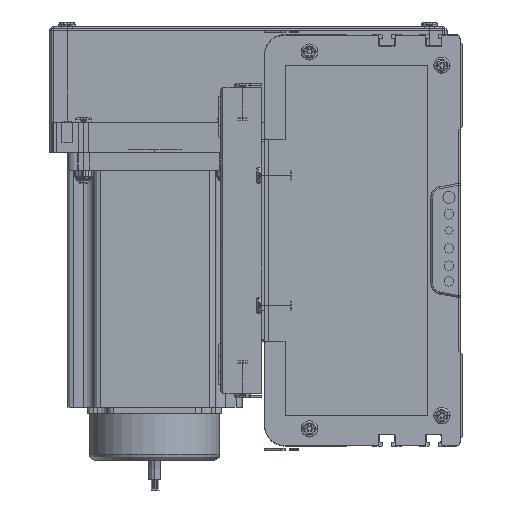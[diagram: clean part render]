
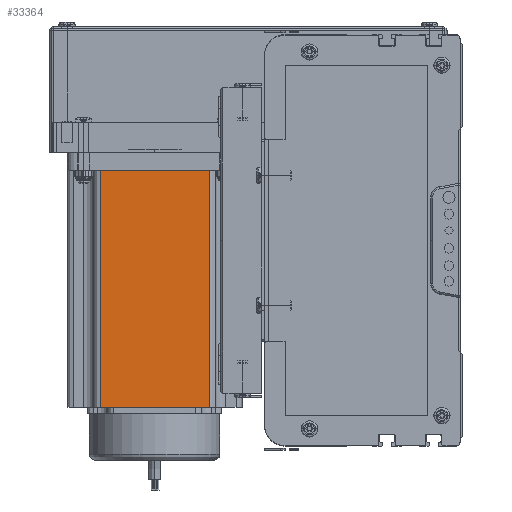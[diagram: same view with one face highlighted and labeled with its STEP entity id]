
A CAD part, left-side view. The second image highlights one B-rep face of the part: STEP entity #33364.
In plain terms, the highlighted planar face has unit normal (-1, 0, 0) as drawn and (0, -1, 0) by its records, which use the part's own axes.
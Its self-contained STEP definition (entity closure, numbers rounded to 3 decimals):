
#32985 = ORIENTED_EDGE ( 'NONE', *, *, #33569, .T. ) ;
#33147 = EDGE_LOOP ( 'NONE', ( #32985, #33605, #33740, #33821 ) ) ;
#33364 = ADVANCED_FACE ( 'NONE', ( #104871 ), #104904, .F. ) ;
#33440 = VERTEX_POINT ( 'NONE', #104985 ) ;
#33441 = EDGE_CURVE ( 'NONE', #33440, #33568, #105133, .T. ) ;
#33568 = VERTEX_POINT ( 'NONE', #105028 ) ;
#33569 = EDGE_CURVE ( 'NONE', #33741, #33440, #104996, .T. ) ;
#33570 = VERTEX_POINT ( 'NONE', #104997 ) ;
#33605 = ORIENTED_EDGE ( 'NONE', *, *, #33441, .T. ) ;
#33642 = EDGE_CURVE ( 'NONE', #33570, #33741, #105291, .T. ) ;
#33643 = EDGE_CURVE ( 'NONE', #33570, #33568, #105281, .T. ) ;
#33740 = ORIENTED_EDGE ( 'NONE', *, *, #33643, .F. ) ;
#33741 = VERTEX_POINT ( 'NONE', #105266 ) ;
#33821 = ORIENTED_EDGE ( 'NONE', *, *, #33642, .T. ) ;
#104823 = DIRECTION ( 'NONE',  ( 0., 0., 1. ) ) ;
#104824 = DIRECTION ( 'NONE',  ( 0., 1., 0. ) ) ;
#104825 = CARTESIAN_POINT ( 'NONE',  ( 0., 0., 116.5 ) ) ;
#104826 = AXIS2_PLACEMENT_3D ( 'NONE', #104825, #104824, #104823 ) ;
#104871 = FACE_OUTER_BOUND ( 'NONE', #33147, .T. ) ;
#104904 = PLANE ( 'NONE',  #104826 ) ;
#104980 = VECTOR ( 'NONE', #105135, 1000. ) ;
#104985 = CARTESIAN_POINT ( 'NONE',  ( 69.74, 0., 0. ) ) ;
#104993 = DIRECTION ( 'NONE',  ( 1., 0., 0. ) ) ;
#104994 = VECTOR ( 'NONE', #104993, 1000. ) ;
#104995 = CARTESIAN_POINT ( 'NONE',  ( 0., 0., 0. ) ) ;
#104996 = LINE ( 'NONE', #104995, #104994 ) ;
#104997 = CARTESIAN_POINT ( 'NONE',  ( 16.16, 0., 116.5 ) ) ;
#105028 = CARTESIAN_POINT ( 'NONE',  ( 69.74, 0., 116.5 ) ) ;
#105132 = CARTESIAN_POINT ( 'NONE',  ( 69.74, 0., 116.5 ) ) ;
#105133 = LINE ( 'NONE', #105132, #104980 ) ;
#105135 = DIRECTION ( 'NONE',  ( 0., 0., 1. ) ) ;
#105151 = VECTOR ( 'NONE', #105283, 1000. ) ;
#105152 = CARTESIAN_POINT ( 'NONE',  ( 0., 0., 116.5 ) ) ;
#105266 = CARTESIAN_POINT ( 'NONE',  ( 16.16, 0., 0. ) ) ;
#105281 = LINE ( 'NONE', #105152, #105383 ) ;
#105283 = DIRECTION ( 'NONE',  ( 0., 0., -1. ) ) ;
#105284 = CARTESIAN_POINT ( 'NONE',  ( 16.16, 0., 116.5 ) ) ;
#105291 = LINE ( 'NONE', #105284, #105151 ) ;
#105382 = DIRECTION ( 'NONE',  ( 1., 0., 0. ) ) ;
#105383 = VECTOR ( 'NONE', #105382, 1000. ) ;
